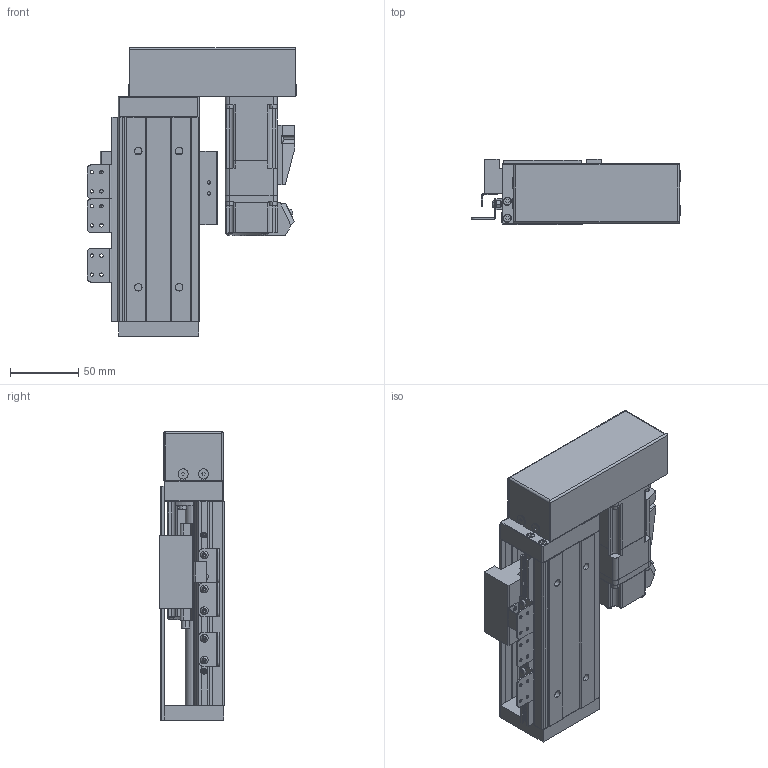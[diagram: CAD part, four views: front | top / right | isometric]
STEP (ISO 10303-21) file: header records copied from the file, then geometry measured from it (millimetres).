
FILE_DESCRIPTION (( 'STEP AP203' ), '1' );
FILE_NAME ('KH60D10C-150A1-H2LCS0.STEP', '2022-06-08T05:51:59', ( '' ), ( '' ), 'SwSTEP 2.0', 'SolidWorks 2016', '' );
FILE_SCHEMA (( 'CONFIG_CONTROL_DESIGN' ));
Length unit declared in the file: millimetre
Products named in the file (66): 鞠褒蹟譫M3; KK60-01-02-XXXX; KK60-02-01-H0_KK60-02-01-H0&H1; 内六角圆柱头螺钉M3×10; 囀鞠褒す埴芛蹟隊M3℅5; KH60-500; KK60-01-02-XXXX_KK60-01-02-150; 綴釱; 蛌諉啣; 216々湍; KK60-02-04; KK60-04-07; 内六角圆柱头螺钉M3×18; 囀鞠褒麥芛蹟隊M3x5; KK60-08-01; 侂狟萇儂P10B; 晦埴芛M3X6蹟隊; KH60-02-0000-L; B-KK60-A1-F0C; KK60-02-02; KH86-08-(SX674); KH60D10C-150A1-H2LCS0; KK60-02-01-H0; KK60-02-03; 錨璃2
Assembly tree (38 placements, depth 3):
  鞠褒蹟譫M3
  KK60-01-02-XXXX
  内六角圆柱头螺钉M3×10
  内六角圆柱头螺钉M3×10
  綴釱
Bounding box: 153.7 x 48 x 212 mm (x, y, z)
Volume: 541606.6 mm3; surface area: 202597.9 mm2
Topology: 45 solids, 45 shells, 2411 faces, 6232 edges, 3969 vertices
Faces by surface type: plane 1116, cylinder 614, cone 319, bspline 280, torus 70, sphere 12
Entity records: 66116 total; most frequent: CARTESIAN_POINT 15466, ORIENTED_EDGE 9708, DIRECTION 8487, EDGE_CURVE 4854, VERTEX_POINT 3179, LINE 3003, VECTOR 3003, AXIS2_PLACEMENT_3D 2742
